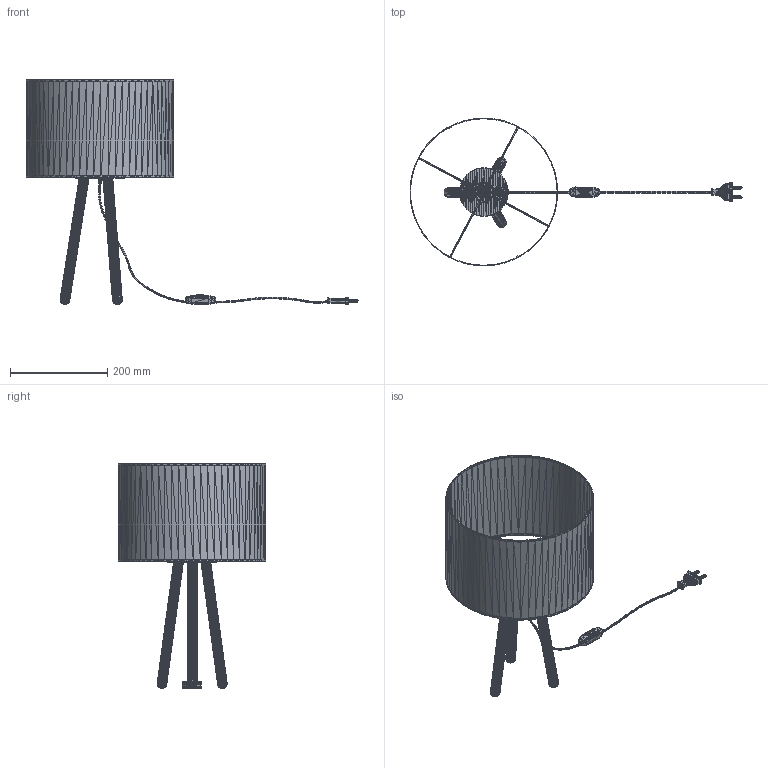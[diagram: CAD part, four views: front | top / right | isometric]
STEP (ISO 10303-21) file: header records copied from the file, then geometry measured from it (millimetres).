
FILE_DESCRIPTION(('FreeCAD Model'),'2;1');
FILE_NAME('Open CASCADE Shape Model','2022-11-29T21:54:10',('Author'),( ''),'Open CASCADE STEP processor 7.6','FreeCAD','Unknown');
FILE_SCHEMA(('AUTOMOTIVE_DESIGN { 1 0 10303 214 1 1 1 1 }'));
Length unit declared in the file: millimetre
Products named in the file (25): Unnamed; Mesh036 (Solid); Mesh001001 (Solid); Mesh002001 (Solid); Mesh003001 (Solid); Mesh004001 (Solid); Mesh005001 (Solid); Mesh006001 (Solid); Mesh007001 (Solid); Mesh020001 (Solid); Mesh021001 (Solid); Mesh022001 (Solid); Mesh023001 (Solid); Mesh024001 (Solid); Mesh025001 (Solid); Mesh026001 (Solid); Mesh027001 (Solid); Mesh028001 (Solid); Mesh029001 (Solid); Mesh030001 (Solid); Mesh031001 (Solid); Mesh032001 (Solid); Mesh033001 (Solid); Mesh034001 (Solid); Mesh035001 (Solid)
Assembly tree (24 placements, depth 2):
  Unnamed
    Mesh036 (Solid)
    Mesh001001 (Solid)
    Mesh002001 (Solid)
    Mesh003001 (Solid)
    Mesh004001 (Solid)
    Mesh005001 (Solid)
    Mesh006001 (Solid)
    Mesh007001 (Solid)
    Mesh020001 (Solid)
    Mesh021001 (Solid)
    Mesh022001 (Solid)
    Mesh023001 (Solid)
    Mesh024001 (Solid)
    Mesh025001 (Solid)
    Mesh026001 (Solid)
    Mesh027001 (Solid)
    Mesh028001 (Solid)
    Mesh029001 (Solid)
    Mesh030001 (Solid)
    Mesh031001 (Solid)
    Mesh032001 (Solid)
    Mesh033001 (Solid)
    Mesh034001 (Solid)
    Mesh035001 (Solid)
Bounding box: 681.66 x 303.12 x 461.23 mm (x, y, z)
Volume: 283177 mm3; surface area: 303428 mm2
Topology: 20 solids, 56 shells, 20352 faces, 30645 edges, 10341 vertices
Faces by surface type: plane 20352
Entity records: 794766 total; most frequent: DIRECTION 132333, CARTESIAN_POINT 122297, LINE 91579, VECTOR 91579, ORIENTED_EDGE 61056, PCURVE 60934, DEFINITIONAL_REPRESENTATION 60934, EDGE_CURVE 30645
